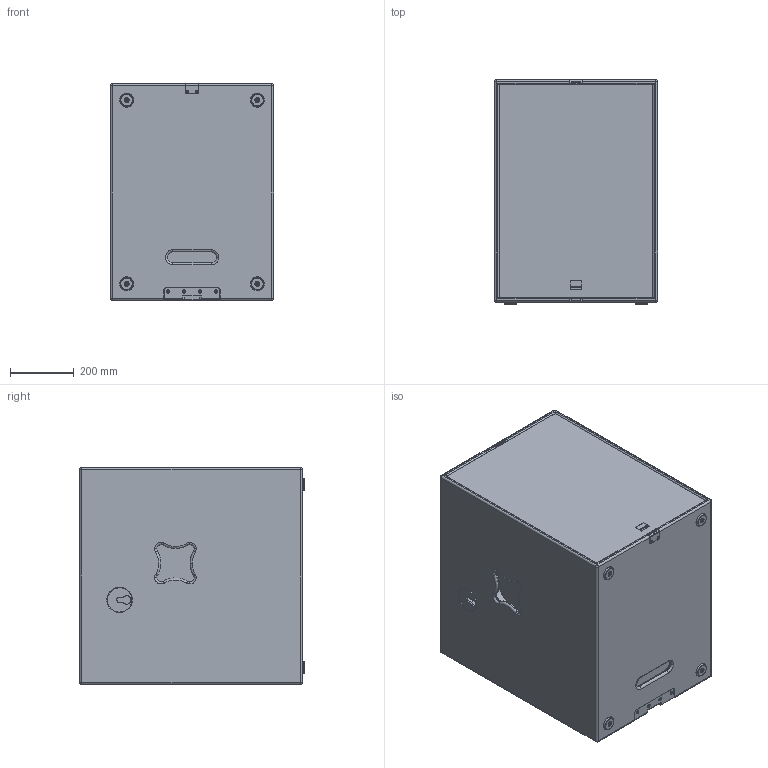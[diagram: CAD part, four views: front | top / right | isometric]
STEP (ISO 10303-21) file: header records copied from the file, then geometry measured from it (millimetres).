
FILE_DESCRIPTION (( 'STEP AP203' ), '1' );
FILE_NAME ('Seeburg_TSE-Sub.STEP', '2012-10-17T11:20:43', ( 'Fabian' ), ( '' ), 'SwSTEP 2.0', 'SolidWorks 2009', '' );
FILE_SCHEMA (( 'CONFIG_CONTROL_DESIGN' ));
Length unit declared in the file: millimetre
Products named in the file (2): TSE-Sub; Seeburg_TSE-Sub
Assembly tree (1 placements, depth 2):
  Seeburg_TSE-Sub
    TSE-Sub
Bounding box: 512 x 704 x 680 mm (x, y, z)
Volume: 35691026.3 mm3; surface area: 5027356.4 mm2
Topology: 22 solids, 22 shells, 949 faces, 2399 edges, 1512 vertices
Faces by surface type: cylinder 374, plane 291, torus 140, cone 132, sphere 12
Entity records: 32726 total; most frequent: CARTESIAN_POINT 9173, DIRECTION 5153, ORIENTED_EDGE 4766, EDGE_CURVE 2383, AXIS2_PLACEMENT_3D 2005, VERTEX_POINT 1504, VECTOR 1143, LINE 1143
